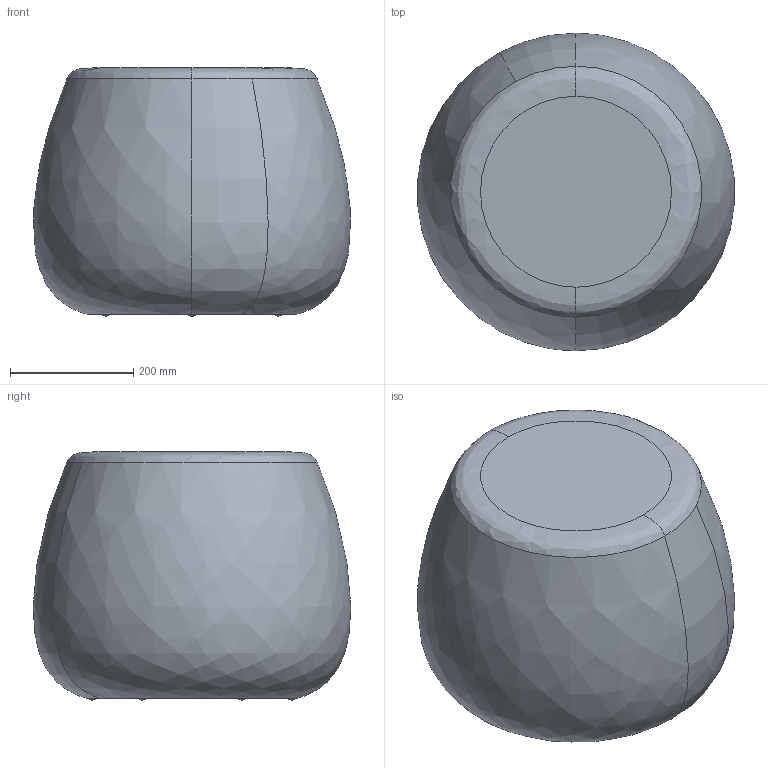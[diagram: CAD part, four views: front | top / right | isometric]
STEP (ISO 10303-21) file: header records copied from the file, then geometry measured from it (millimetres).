
FILE_DESCRIPTION(('CATIA V5 STEP Exchange','CAx-IF Rec.Pracs.--- Model Styling and Organization---1.5--- 2016-08-15','CAx-IF Rec.Pracs.---Supplemental Geometry---1.0---2011-11-01','CAx-IF Rec.Pracs.--- Composite Materials ---3.4---2017-06-13','CAx-IF Rec.Pracs.---Tessellated 3D Geometry---1.0---2015-12-17'),'2;1');
FILE_NAME('C:\Users\samatori\Desktop\3D-Web-2022\Sgabello-BOOM-Basso\Sgabello-BOOM-Basso.stp','2022-11-07T14:19:39+00:00',('none'),('none'),'CATIA Version 5-6 Release 2020 SP3','CATIA V5 STEP AP242 v2','none');
FILE_SCHEMA(('AP242_MANAGED_MODEL_BASED_3D_ENGINEERING_MIM_LF {1 0 10303 442 1 1 4}'));
Length unit declared in the file: millimetre
Products named in the file (1): Part4
Bounding box: 514.17 x 515.83 x 402.92 mm (x, y, z)
Volume: 69080391.4 mm3; surface area: 885399.2 mm2
Topology: 1 solids, 1 shells, 60 faces, 159 edges, 91 vertices
Faces by surface type: bspline 24, sphere 12, cone 8, torus 6, revolution 6, plane 4
Entity records: 3830 total; most frequent: CARTESIAN_POINT 2675, ORIENTED_EDGE 294, EDGE_CURVE 147, DIRECTION 111, VERTEX_POINT 91, B_SPLINE_CURVE_WITH_KNOTS 88, AXIS2_PLACEMENT_3D 78, EDGE_LOOP 62
